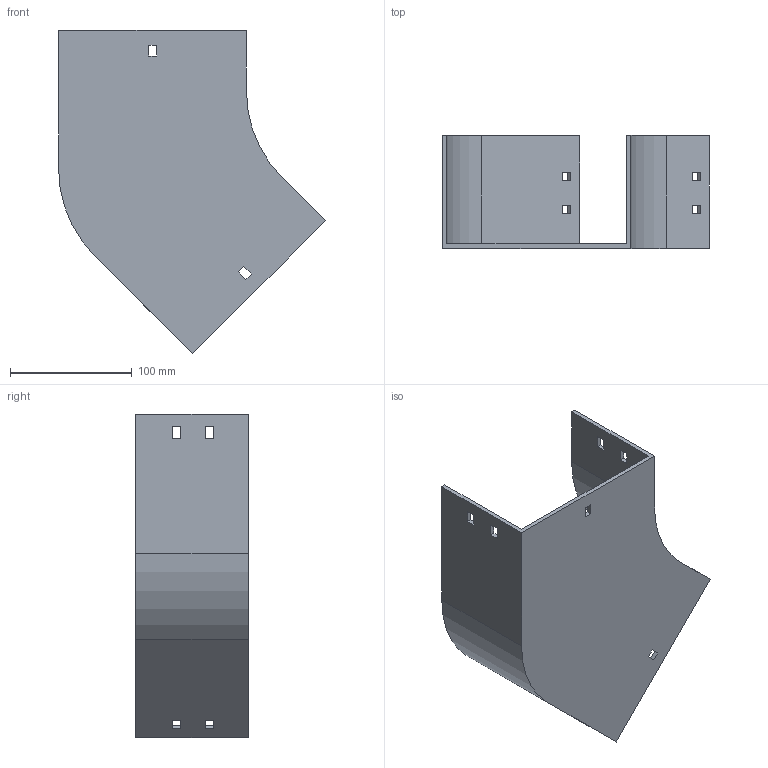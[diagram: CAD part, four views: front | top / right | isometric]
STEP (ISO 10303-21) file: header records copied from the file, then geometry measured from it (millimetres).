
FILE_DESCRIPTION (( 'STEP AP214' ), '1' );
FILE_NAME ('11B1I150.step', '2025-02-21T09:39:06', ( '' ), ( '' ), 'SwSTEP 2.0', 'SolidWorks 2023', '' );
FILE_SCHEMA (( 'AUTOMOTIVE_DESIGN' ));
Length unit declared in the file: millimetre
Products named in the file (1): 11B1I150
Bounding box: 218.64 x 92.5 x 264.96 mm (x, y, z)
Volume: 281535.7 mm3; surface area: 166066.9 mm2
Topology: 1 solids, 1 shells, 58 faces, 168 edges, 112 vertices
Faces by surface type: plane 54, cylinder 4
Entity records: 1943 total; most frequent: CARTESIAN_POINT 339, ORIENTED_EDGE 336, DIRECTION 294, EDGE_CURVE 168, LINE 160, VECTOR 160, VERTEX_POINT 112, EDGE_LOOP 78
